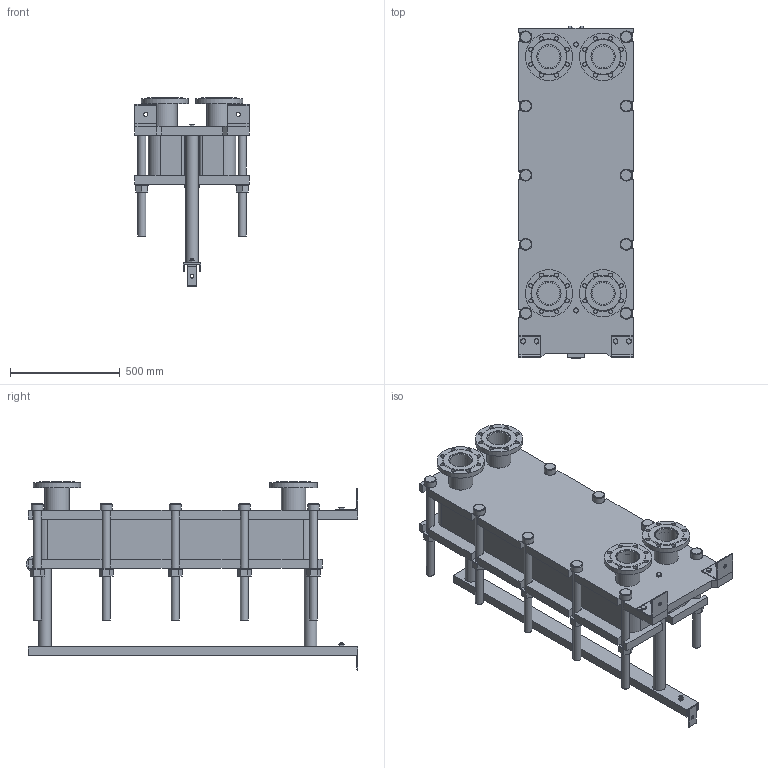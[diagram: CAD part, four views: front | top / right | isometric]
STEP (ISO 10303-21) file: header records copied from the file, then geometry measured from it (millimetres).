
FILE_DESCRIPTION(/* description */ (''),/* implementation_level */ '2;1');
FILE_NAME(/* name */ 'C:\Users\zhuro\Desktop\ENCO\TO\ЭН-04\ЭН-0,5-04-53-1.stp',/* time_stamp */ '2022-06-06T10:48:50+03:00',/* author */ ('zhuro'),/* organization */ (''),/* preprocessor_version */ 'ST-DEVELOPER v18.1',/* originating_system */ 'Autodesk Inventor 2022',/* authorisation */ '');
FILE_SCHEMA (('AUTOMOTIVE_DESIGN { 1 0 10303 214 3 1 1 }'));
Length unit declared in the file: millimetre
Products named in the file (1): ЭН-0,5-04-53-1
Bounding box: 520 x 1510 x 856.5 mm (x, y, z)
Volume: 160056161 mm3; surface area: 7321727.5 mm2
Topology: 45 solids, 45 shells, 668 faces, 1611 edges, 1048 vertices
Faces by surface type: plane 457, cylinder 166, cone 39, torus 6
Full cylindrical faces by diameter (mm): 8 x4, 10 x2, 16 x8, 18 x35, 36 x25, 40 x2, 42 x1, 45 x4, 54 x10, 57 x2, 60 x10, 68 x2, 100 x4, 110 x8, 215 x4
Entity records: 23607 total; most frequent: CARTESIAN_POINT 7348, DIRECTION 3371, ORIENTED_EDGE 3142, EDGE_CURVE 1571, AXIS2_PLACEMENT_3D 1199, VERTEX_POINT 1044, LINE 973, VECTOR 973
